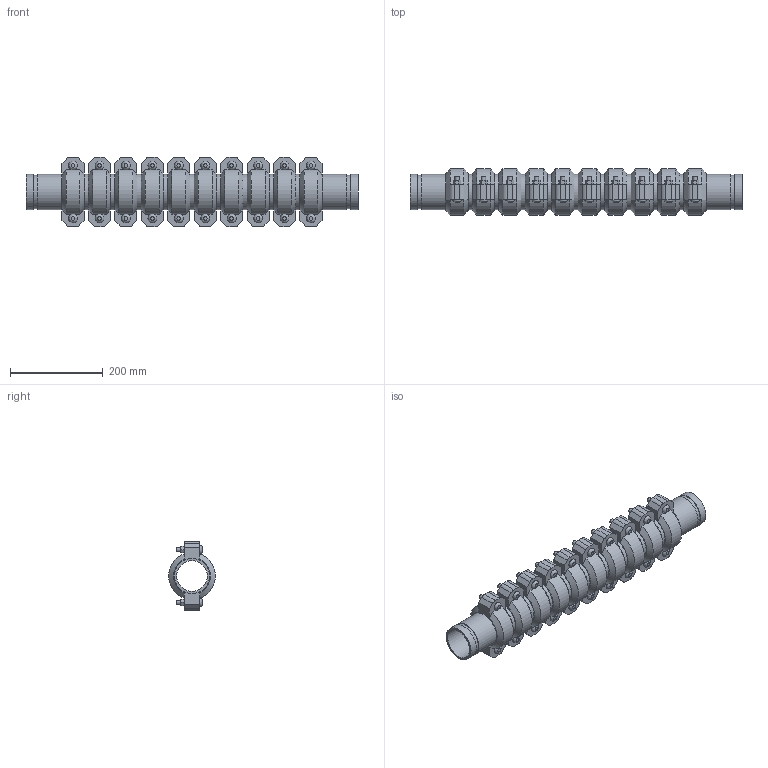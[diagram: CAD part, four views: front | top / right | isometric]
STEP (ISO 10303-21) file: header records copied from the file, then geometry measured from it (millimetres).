
FILE_DESCRIPTION(/* description */ ('VIC EXPANSION JOINT 10 COUPLINGS COMPRESSED STYLE 155 (OGS)','CAx-IF Rec.Pracs.---Representation and Presentation of Product Manufacturing Information (PMI)---4.0---2014-10-13'),/* implementation_level */ '2;1');
FILE_NAME(/* name */ 'C:\Users\kkamble\AppData\Roaming\Autodesk\ApplicationPlugins\Victaulic.Temp\A539\Victaulic_IPS_Expansion Joint_Compressed_10 Couplings_Style 155 (OGS)_02.5 (76.1) (65).stp',/* time_stamp */ '2021-06-27T00:16:34+02:00',/* author */ ('kkamble'),/* organization */ ('Victaulic'),/* preprocessor_version */ 'ST-DEVELOPER v17.2',/* originating_system */ 'Autodesk Inventor 2019',/* authorisation */ '');
FILE_SCHEMA (('AP242_MANAGED_MODEL_BASED_3D_ENGINEERING_MIM_LF { 1 0 10303 442 1 1 4 }'));
Length unit declared in the file: inch
Products named in the file (4): 155-02.5 (76.1); Nipple-02.5 (76.1); Nipple-02.5 (76.1)_1; 075-02.5 (76.1)
Assembly tree (21 placements, depth 2):
  155-02.5 (76.1)
    Nipple-02.5 (76.1)  x2
    Nipple-02.5 (76.1)_1  x9
    075-02.5 (76.1)  x10
Bounding box: 717.55 x 101.25 x 149.86 mm (x, y, z)
Volume: 2887881.8 mm3; surface area: 803079.2 mm2
Topology: 21 solids, 41 shells, 662 faces, 1640 edges, 1144 vertices
Faces by surface type: plane 406, cylinder 196, cone 40, bspline 20
Full cylindrical faces by diameter (mm): 9.525 x40, 11.43 x20, 66.65 x11, 72.263 x22, 76.2 x43
Entity records: 2837 total; most frequent: CARTESIAN_POINT 523, DIRECTION 469, ORIENTED_EDGE 382, EDGE_CURVE 191, AXIS2_PLACEMENT_3D 188, VERTEX_POINT 136, EDGE_LOOP 99, LINE 93
